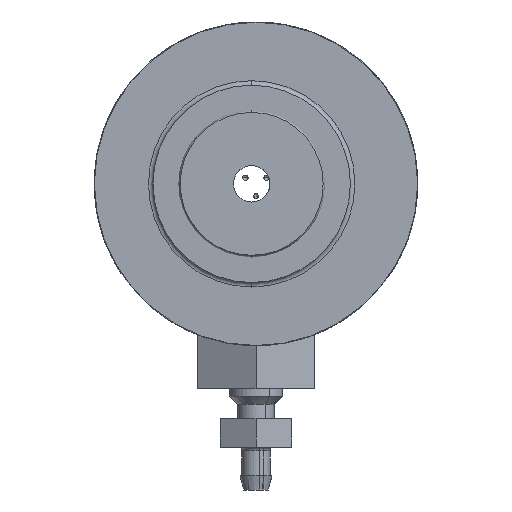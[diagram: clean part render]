
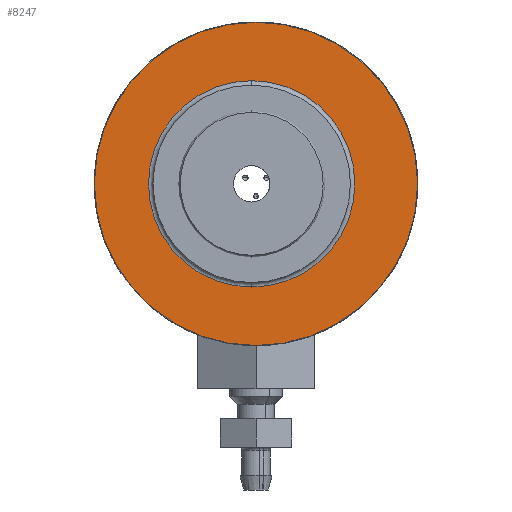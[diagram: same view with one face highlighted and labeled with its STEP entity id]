
A CAD part, front view. The second image highlights one B-rep face of the part: STEP entity #8247.
In plain terms, the highlighted planar face has unit normal (0, -1, 0).
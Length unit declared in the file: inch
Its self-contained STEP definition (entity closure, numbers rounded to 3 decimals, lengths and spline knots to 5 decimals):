
#8247 = ADVANCED_FACE ( 'NONE', ( #24250, #20800 ), #32989, .F. ) ;
#9289 = VERTEX_POINT ( 'NONE', #21253 ) ;
#11305 = CARTESIAN_POINT ( 'NONE',  ( 0.0189, 0.51378, 0. ) ) ;
#11376 = CIRCLE ( 'NONE', #40988, 0.45177 ) ;
#15023 = CARTESIAN_POINT ( 'NONE',  ( 0.0189, 0.51378, 0. ) ) ;
#15540 = DIRECTION ( 'NONE',  ( 0., 1., 0. ) ) ;
#16588 = AXIS2_PLACEMENT_3D ( 'NONE', #15023, #15540, #19496 ) ;
#19496 = DIRECTION ( 'NONE',  ( 0., 0., 1. ) ) ;
#20679 = EDGE_LOOP ( 'NONE', ( #49119, #26643 ) ) ;
#20800 = FACE_OUTER_BOUND ( 'NONE', #20679, .T. ) ;
#21142 = DIRECTION ( 'NONE',  ( 0., 0., 1. ) ) ;
#21253 = CARTESIAN_POINT ( 'NONE',  ( 0., 0.51378, 0.45177 ) ) ;
#21426 = CARTESIAN_POINT ( 'NONE',  ( 0., 0.51378, -0.45177 ) ) ;
#21515 = ORIENTED_EDGE ( 'NONE', *, *, #33002, .T. ) ;
#22178 = DIRECTION ( 'NONE',  ( 0., 1., 0. ) ) ;
#22522 = CIRCLE ( 'NONE', #23400, 0.70768 ) ;
#23400 = AXIS2_PLACEMENT_3D ( 'NONE', #11305, #39640, #35406 ) ;
#24250 = FACE_BOUND ( 'NONE', #37628, .T. ) ;
#25638 = CARTESIAN_POINT ( 'NONE',  ( 0., 0.51378, 0. ) ) ;
#25895 = DIRECTION ( 'NONE',  ( 0., 0., 1. ) ) ;
#26643 = ORIENTED_EDGE ( 'NONE', *, *, #26833, .F. ) ;
#26833 = EDGE_CURVE ( 'NONE', #29274, #32503, #33530, .T. ) ;
#27623 = CARTESIAN_POINT ( 'NONE',  ( 0.0189, 0.51378, 0.70768 ) ) ;
#28726 = DIRECTION ( 'NONE',  ( 0., 1., 0. ) ) ;
#28992 = CARTESIAN_POINT ( 'NONE',  ( 0.0189, 0.51378, 0. ) ) ;
#29274 = VERTEX_POINT ( 'NONE', #27623 ) ;
#32503 = VERTEX_POINT ( 'NONE', #42730 ) ;
#32989 = PLANE ( 'NONE',  #35941 ) ;
#33002 = EDGE_CURVE ( 'NONE', #9289, #38676, #49052, .T. ) ;
#33530 = CIRCLE ( 'NONE', #16588, 0.70768 ) ;
#33850 = DIRECTION ( 'NONE',  ( 0., 1., 0. ) ) ;
#35406 = DIRECTION ( 'NONE',  ( 0., 0., 1. ) ) ;
#35508 = AXIS2_PLACEMENT_3D ( 'NONE', #38327, #33850, #25895 ) ;
#35941 = AXIS2_PLACEMENT_3D ( 'NONE', #28992, #28726, #45144 ) ;
#37628 = EDGE_LOOP ( 'NONE', ( #21515, #44475 ) ) ;
#38327 = CARTESIAN_POINT ( 'NONE',  ( 0., 0.51378, 0. ) ) ;
#38676 = VERTEX_POINT ( 'NONE', #21426 ) ;
#39640 = DIRECTION ( 'NONE',  ( 0., 1., 0. ) ) ;
#40988 = AXIS2_PLACEMENT_3D ( 'NONE', #25638, #22178, #21142 ) ;
#42730 = CARTESIAN_POINT ( 'NONE',  ( 0.0189, 0.51378, -0.70768 ) ) ;
#44475 = ORIENTED_EDGE ( 'NONE', *, *, #46380, .T. ) ;
#45144 = DIRECTION ( 'NONE',  ( 0., 0., 1. ) ) ;
#46380 = EDGE_CURVE ( 'NONE', #38676, #9289, #11376, .T. ) ;
#49052 = CIRCLE ( 'NONE', #35508, 0.45177 ) ;
#49119 = ORIENTED_EDGE ( 'NONE', *, *, #50386, .F. ) ;
#50386 = EDGE_CURVE ( 'NONE', #32503, #29274, #22522, .T. ) ;
